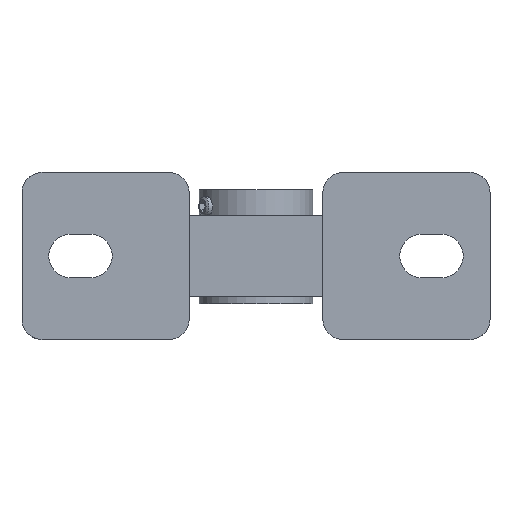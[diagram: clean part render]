
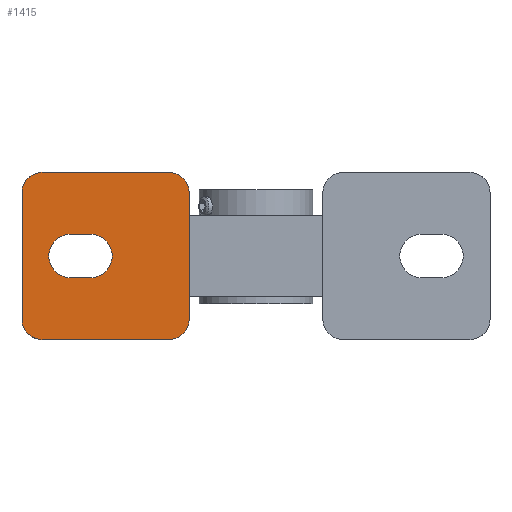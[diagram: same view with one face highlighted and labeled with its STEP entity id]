
A CAD part, front view. The second image highlights one B-rep face of the part: STEP entity #1415.
In plain terms, the highlighted planar face has unit normal (0, -1, 0).
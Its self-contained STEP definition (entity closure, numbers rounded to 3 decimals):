
#179=CARTESIAN_POINT('',(16.355,-41.095,-25.0));
#180=VERTEX_POINT('',#179);
#187=CARTESIAN_POINT('',(-21.645,-41.095,-25.0));
#188=VERTEX_POINT('',#187);
#189=CARTESIAN_POINT('',(16.355,-41.095,-25.0));
#190=DIRECTION('',(-1.0,0.0,0.0));
#191=VECTOR('',#190,38.);
#192=LINE('',#189,#191);
#193=EDGE_CURVE('',#180,#188,#192,.T.);
#668=CARTESIAN_POINT('',(-27.645,-41.095,-19.0));
#669=VERTEX_POINT('',#668);
#670=CARTESIAN_POINT('',(-21.645,-41.095,-19.0));
#671=DIRECTION('',(0.0,1.0,0.0));
#672=DIRECTION('',(-0.707,0.0,-0.707));
#673=AXIS2_PLACEMENT_3D('',#670,#671,#672);
#674=CIRCLE('',#673,6.);
#675=EDGE_CURVE('',#188,#669,#674,.T.);
#781=CARTESIAN_POINT('',(22.355,-41.095,19.));
#782=VERTEX_POINT('',#781);
#789=CARTESIAN_POINT('',(22.355,-41.095,-19.));
#790=VERTEX_POINT('',#789);
#791=CARTESIAN_POINT('',(22.355,-41.095,19.));
#792=DIRECTION('',(0.0,0.0,-1.0));
#793=VECTOR('',#792,38.0);
#794=LINE('',#791,#793);
#795=EDGE_CURVE('',#782,#790,#794,.T.);
#1284=CARTESIAN_POINT('',(-27.645,-41.095,19.0));
#1285=VERTEX_POINT('',#1284);
#1286=CARTESIAN_POINT('',(-27.645,-41.095,-19.0));
#1287=DIRECTION('',(0.0,0.0,1.0));
#1288=VECTOR('',#1287,38.0);
#1289=LINE('',#1286,#1288);
#1290=EDGE_CURVE('',#669,#1285,#1289,.T.);
#1309=CARTESIAN_POINT('',(-21.645,-41.095,25.0));
#1310=VERTEX_POINT('',#1309);
#1311=CARTESIAN_POINT('',(-21.645,-41.095,19.0));
#1312=DIRECTION('',(0.0,1.0,0.0));
#1313=DIRECTION('',(-0.707,0.0,0.707));
#1314=AXIS2_PLACEMENT_3D('',#1311,#1312,#1313);
#1315=CIRCLE('',#1314,6.);
#1316=EDGE_CURVE('',#1285,#1310,#1315,.T.);
#1332=CARTESIAN_POINT('',(16.355,-41.095,-19.0));
#1333=DIRECTION('',(0.0,1.0,0.0));
#1334=DIRECTION('',(0.707,0.0,-0.707));
#1335=AXIS2_PLACEMENT_3D('',#1332,#1333,#1334);
#1336=CIRCLE('',#1335,6.0);
#1337=EDGE_CURVE('',#790,#180,#1336,.T.);
#1351=CARTESIAN_POINT('',(42.355,-41.095,0.0));
#1352=DIRECTION('',(0.0,-1.0,0.0));
#1353=DIRECTION('',(0.0,0.0,-1.0));
#1354=AXIS2_PLACEMENT_3D('',#1351,#1352,#1353);
#1355=PLANE('',#1354);
#1356=ORIENTED_EDGE('',*,*,#675,.F.);
#1357=ORIENTED_EDGE('',*,*,#193,.F.);
#1358=ORIENTED_EDGE('',*,*,#1337,.F.);
#1359=ORIENTED_EDGE('',*,*,#795,.F.);
#1360=CARTESIAN_POINT('',(16.355,-41.095,25.0));
#1361=VERTEX_POINT('',#1360);
#1362=CARTESIAN_POINT('',(16.355,-41.095,19.0));
#1363=DIRECTION('',(0.0,1.0,0.0));
#1364=DIRECTION('',(0.707,0.0,0.707));
#1365=AXIS2_PLACEMENT_3D('',#1362,#1363,#1364);
#1366=CIRCLE('',#1365,6.);
#1367=EDGE_CURVE('',#1361,#782,#1366,.T.);
#1368=ORIENTED_EDGE('',*,*,#1367,.F.);
#1369=CARTESIAN_POINT('',(-21.645,-41.095,25.0));
#1370=DIRECTION('',(1.0,0.0,0.0));
#1371=VECTOR('',#1370,38.);
#1372=LINE('',#1369,#1371);
#1373=EDGE_CURVE('',#1310,#1361,#1372,.T.);
#1374=ORIENTED_EDGE('',*,*,#1373,.F.);
#1375=ORIENTED_EDGE('',*,*,#1316,.F.);
#1376=ORIENTED_EDGE('',*,*,#1290,.F.);
#1377=EDGE_LOOP('',(#1356,#1357,#1358,#1359,#1368,#1374,#1375,#1376));
#1378=FACE_OUTER_BOUND('',#1377,.T.);
#1379=CARTESIAN_POINT('',(-13.145,-41.095,-6.5));
#1380=VERTEX_POINT('',#1379);
#1381=CARTESIAN_POINT('',(-7.145,-41.095,-6.5));
#1382=VERTEX_POINT('',#1381);
#1383=CARTESIAN_POINT('',(-13.145,-41.095,-6.5));
#1384=DIRECTION('',(1.0,0.0,0.0));
#1385=VECTOR('',#1384,6.);
#1386=LINE('',#1383,#1385);
#1387=EDGE_CURVE('',#1380,#1382,#1386,.T.);
#1388=ORIENTED_EDGE('',*,*,#1387,.F.);
#1389=CARTESIAN_POINT('',(-13.145,-41.095,6.5));
#1390=VERTEX_POINT('',#1389);
#1391=CARTESIAN_POINT('',(-13.145,-41.095,0.0));
#1392=DIRECTION('',(0.0,-1.0,0.0));
#1393=DIRECTION('',(0.0,0.0,1.0));
#1394=AXIS2_PLACEMENT_3D('',#1391,#1392,#1393);
#1395=CIRCLE('',#1394,6.5);
#1396=EDGE_CURVE('',#1390,#1380,#1395,.T.);
#1397=ORIENTED_EDGE('',*,*,#1396,.F.);
#1398=CARTESIAN_POINT('',(-7.145,-41.095,6.5));
#1399=VERTEX_POINT('',#1398);
#1400=CARTESIAN_POINT('',(-7.145,-41.095,6.5));
#1401=DIRECTION('',(-1.0,0.0,0.0));
#1402=VECTOR('',#1401,6.);
#1403=LINE('',#1400,#1402);
#1404=EDGE_CURVE('',#1399,#1390,#1403,.T.);
#1405=ORIENTED_EDGE('',*,*,#1404,.F.);
#1406=CARTESIAN_POINT('',(-7.145,-41.095,0.0));
#1407=DIRECTION('',(0.0,-1.0,0.0));
#1408=DIRECTION('',(0.0,0.0,-1.0));
#1409=AXIS2_PLACEMENT_3D('',#1406,#1407,#1408);
#1410=CIRCLE('',#1409,6.5);
#1411=EDGE_CURVE('',#1382,#1399,#1410,.T.);
#1412=ORIENTED_EDGE('',*,*,#1411,.F.);
#1413=EDGE_LOOP('',(#1388,#1397,#1405,#1412));
#1414=FACE_BOUND('',#1413,.T.);
#1415=ADVANCED_FACE('',(#1378,#1414),#1355,.T.);
